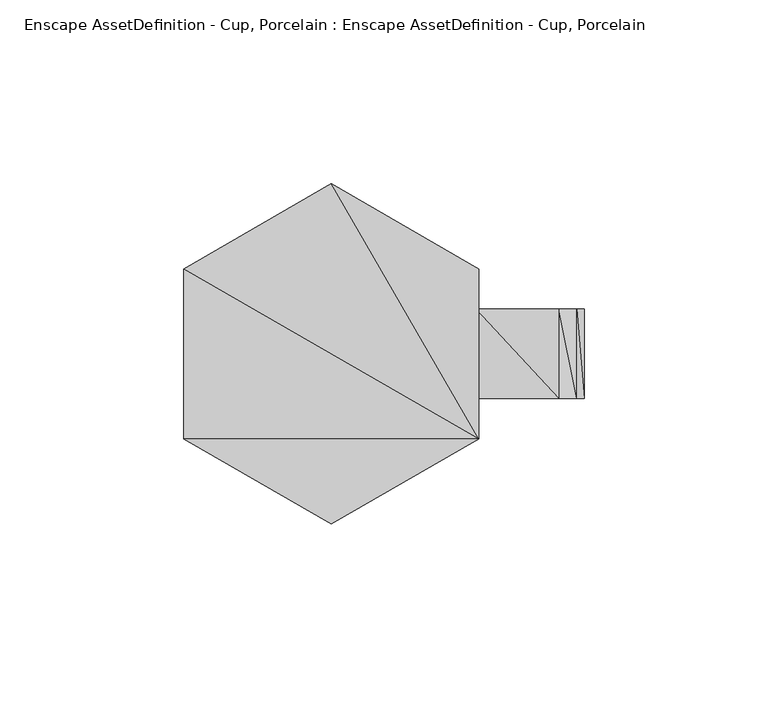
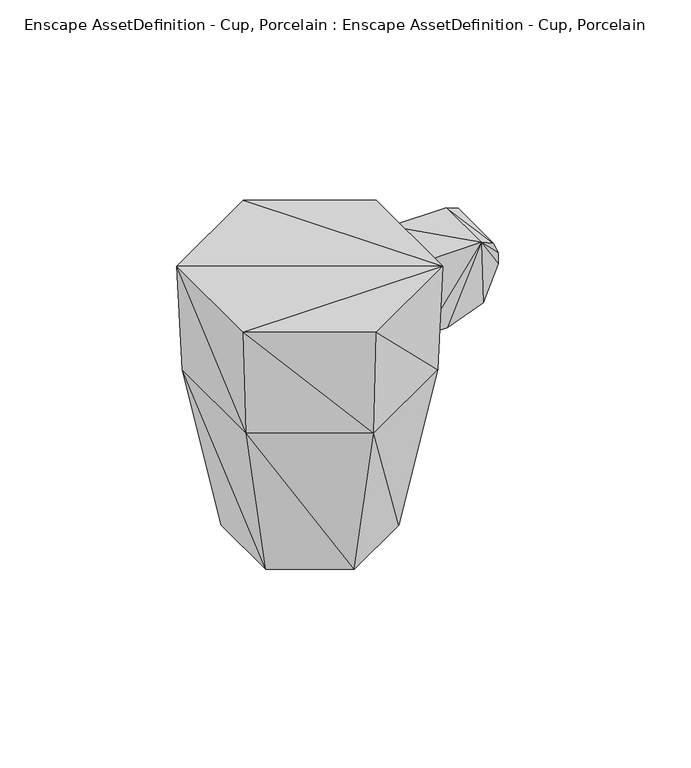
"""IFC4 building model written with IfcOpenShell, lengths in millimetres: geographic element geometry, Enscape AssetDefinition - Cup, Porcelain : Enscape AssetDefinition - Cup, Porcelain."""

from ifc_helpers import new_model, si_unit, origin, place, context, project, spatial, faceted_brep, source, transform, mapped, element, save


def enscape_assetdefinition_cup_porcelain_enscape_8265f1d1(model_context):
    return source(origin(), model_context, "Body", "Brep", [
        faceted_brep([(38.4810008, -22.2169999, 66.1040023), (26.7340001, 15.435, 0.0), (38.4810008, 22.2169999, 66.1040023), (26.7340001, -15.435, 0.0), (0.0, 30.8699999, 0.0), (-26.7340001, 15.435, 0.0), (0.0, -44.4339998, 66.1040023), (40.1029997, -23.1529996, 110.0739986), (0.0, -46.3070013, 110.0739986), (0.0, -30.8699999, 0.0), (-38.4810008, -22.2169999, 66.1040023), (-40.1029997, -23.1529996, 110.0739986), (-40.1029997, 23.1529996, 110.0739986), (40.1029997, 23.1529996, 110.0739986), (0.0, 46.3070013, 110.0739986), (-38.4810008, 22.2169999, 66.1040023), (-26.7340001, -15.435, 0.0), (0.0, 44.4339998, 66.1040023)], [[[0, 1, 2]], [[3, 1, 0]], [[1, 4, 2]], [[1, 5, 4]], [[3, 5, 1]], [[6, 3, 0]], [[0, 2, 7]], [[8, 0, 7]], [[6, 0, 8]], [[9, 3, 6]], [[9, 5, 3]], [[10, 9, 6]], [[11, 6, 8]], [[10, 6, 11]], [[7, 11, 8]], [[11, 7, 12]], [[12, 10, 11]], [[7, 2, 13]], [[14, 7, 13]], [[12, 7, 14]], [[15, 10, 12]], [[14, 15, 12]], [[16, 9, 10]], [[15, 16, 10]], [[5, 9, 16]], [[5, 16, 15]], [[17, 5, 15]], [[17, 15, 14]], [[13, 17, 14]], [[2, 17, 13]], [[4, 5, 17]], [[2, 4, 17]]]),
        faceted_brep([(39.2920002, 12.1630002, 74.5050013), (39.2920002, -12.1630002, 105.9359983), (39.2920002, 12.1630002, 105.9359983), (39.2920002, -12.1630002, 74.5050013), (61.8809983, -12.1630002, 105.9359983), (48.1470004, 12.1630002, 74.5050013), (61.8809983, 12.1630002, 105.9359983), (48.1470004, -12.1630002, 74.5050013), (62.6949966, -12.1630002, 79.9209997), (62.6949966, 12.1630002, 79.9209997), (68.7209964, -12.1630002, 94.4690034), (68.7209964, 12.1630002, 94.4690034), (68.7209964, -12.1630002, 99.0950018), (68.7209964, 12.1630002, 99.0950018), (66.7179972, -12.1630002, 103.9320007), (66.7179972, 12.1630002, 103.9320007)], [[[0, 1, 2]], [[3, 1, 0]], [[3, 4, 1]], [[4, 2, 1]], [[2, 5, 0]], [[6, 5, 2]], [[6, 2, 4]], [[5, 3, 0]], [[7, 3, 5]], [[7, 4, 3]], [[8, 4, 7]], [[9, 7, 5]], [[8, 7, 9]], [[10, 4, 8]], [[11, 8, 9]], [[10, 8, 11]], [[5, 11, 9]], [[11, 12, 10]], [[13, 12, 11]], [[11, 5, 13]], [[12, 4, 10]], [[4, 12, 14]], [[12, 15, 14]], [[13, 15, 12]], [[13, 5, 15]], [[15, 5, 6]], [[15, 6, 14]], [[14, 6, 4]]]),
    ])


if __name__ == "__main__":
    model = new_model("IFC4")
    model_context = context("Model", 3, world=origin())
    ifc_project = project(units=[si_unit("LENGTHUNIT", "METRE", prefix="MILLI")], contexts=[model_context])
    site = spatial("IfcSite", under=ifc_project)
    building = spatial("IfcBuilding", under=site)
    placement = place(None, origin())
    enscape_assetdefinition_cup_porcelain_enscape_shape = enscape_assetdefinition_cup_porcelain_enscape_8265f1d1(model_context)
    element("IfcGeographicElement", 1, ObjectType="Enscape AssetDefinition - Cup, Porcelain : Enscape AssetDefinition - Cup, Porcelain", at=placement, inside=building, context=model_context, shape_type="MappedRepresentation", body=[
        mapped(enscape_assetdefinition_cup_porcelain_enscape_shape, transform((0.0, 0.0, 0.0), x_axis=(1.0, 0.0, 0.0), y_axis=(0.0, 1.0, 0.0), z_axis=(0.0, 0.0, 1.0))),
    ])
    save(model, "model.ifc")
